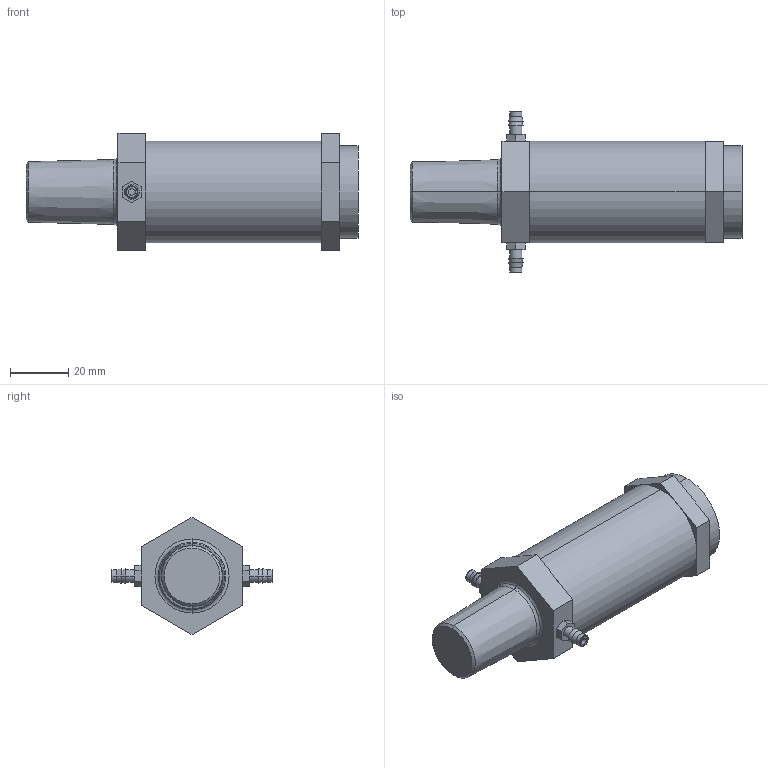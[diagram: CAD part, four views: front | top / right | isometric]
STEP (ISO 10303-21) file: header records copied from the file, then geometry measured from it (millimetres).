
FILE_DESCRIPTION((''),'2;1');
FILE_NAME('XER3_ASM','2017-08-24T',('jennifer.elliott'),('CenterLine (Windsor) Ltd - Automation Components Division'),'PRO/ENGINEER BY PARAMETRIC TECHNOLOGY CORPORATION, 2015030','PRO/ENGINEER BY PARAMETRIC TECHNOLOGY CORPORATION, 2015030','');
FILE_SCHEMA(('AUTOMOTIVE_DESIGN { 1 0 10303 214 1 1 1 1 }'));
Length unit declared in the file: inch
Products named in the file (7): PRT1052; PRT1053; PRT1054; PRT1055; PRT1056; PRT1057; XER3_ASM
Assembly tree (6 placements, depth 2):
  XER3_ASM
    PRT1052
    PRT1053
    PRT1054
    PRT1055
    PRT1056
    PRT1057
Bounding box: 114.17 x 55.55 x 40.33 mm (x, y, z)
Volume: 91499 mm3; surface area: 19540.3 mm2
Topology: 6 solids, 6 shells, 83 faces, 174 edges, 110 vertices
Faces by surface type: plane 43, cylinder 16, torus 12, cone 12
Entity records: 2672 total; most frequent: DIRECTION 440, CARTESIAN_POINT 399, ORIENTED_EDGE 348, EDGE_CURVE 174, AXIS2_PLACEMENT_3D 170, VERTEX_POINT 110, VECTOR 100, LINE 100
